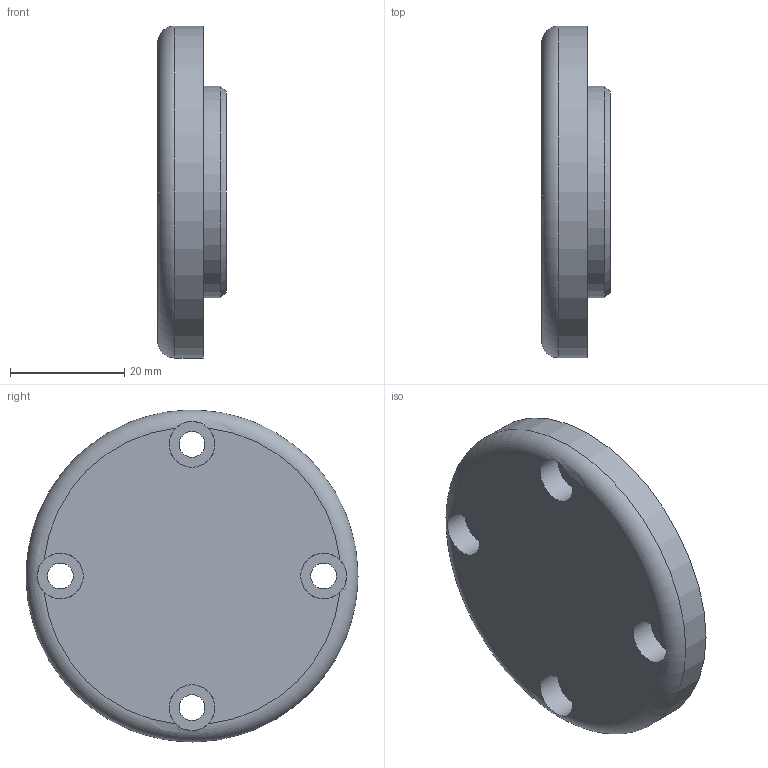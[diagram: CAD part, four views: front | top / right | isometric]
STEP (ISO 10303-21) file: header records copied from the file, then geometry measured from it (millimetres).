
FILE_DESCRIPTION(/* description */ (''),/* implementation_level */ '2;1');
FILE_NAME(/* name */ '',/* time_stamp */ '2024-08-09T13:02:49+09:00',/* author */ ('jhkim'),/* organization */ (''),/* preprocessor_version */ 'ST-DEVELOPER v20',/* originating_system */ 'Autodesk Inventor 2025',/* authorisation */ '');
FILE_SCHEMA (('AUTOMOTIVE_DESIGN { 1 0 10303 214 3 1 1 }'));
Length unit declared in the file: millimetre
Products named in the file (1): 뒷커버
Bounding box: 12 x 58 x 58 mm (x, y, z)
Volume: 20892.6 mm3; surface area: 7683.7 mm2
Topology: 1 solids, 1 shells, 22 faces, 52 edges, 34 vertices
Faces by surface type: cylinder 11, plane 8, torus 2, cone 1
Full cylindrical faces by diameter (mm): 4.5 x4, 8 x4, 32 x1, 37 x1, 58 x1
Entity records: 751 total; most frequent: CARTESIAN_POINT 165, DIRECTION 122, ORIENTED_EDGE 104, AXIS2_PLACEMENT_3D 55, EDGE_CURVE 52, VERTEX_POINT 34, EDGE_LOOP 32, CIRCLE 32
